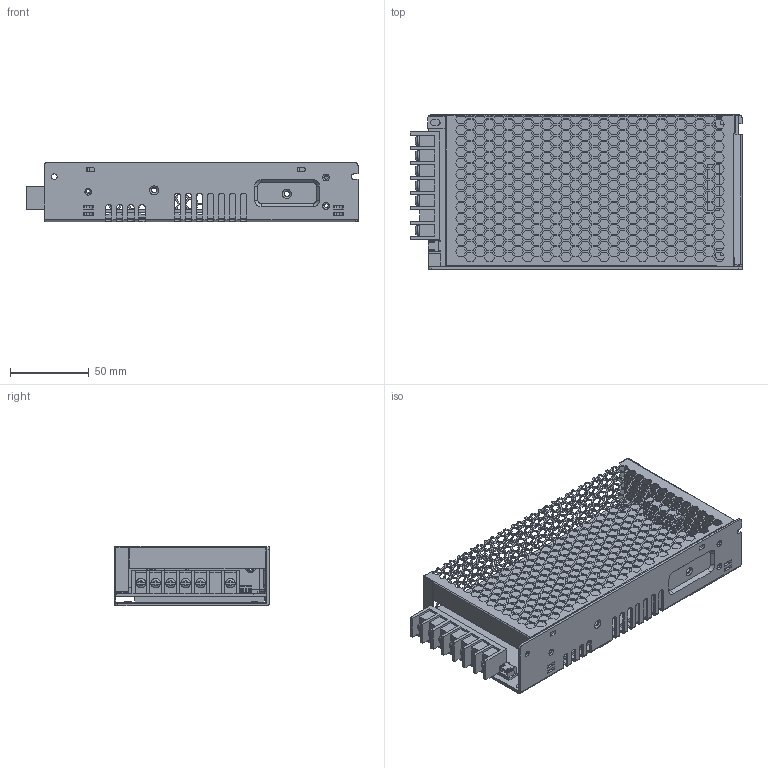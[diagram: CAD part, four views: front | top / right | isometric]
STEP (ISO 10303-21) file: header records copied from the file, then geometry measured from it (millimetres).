
FILE_DESCRIPTION(('Creo Elements/Direct Modeling STEP Export'),'2;1');
FILE_NAME('HRPG-200.stp','2024-04-11T10:43:09',(''),(''),'PTC Creo Elements/Direct Modeling STEP processor for AP214 (Solid Model)','PTC Creo Elements/Direct Modeling 19.0E 27-Jun-2016 (C) Parametric Technology GmbH','');
FILE_SCHEMA(('AUTOMOTIVE_DESIGN { 1 0 10303 214 1 1 1 1 }'));
Length unit declared in the file: millimetre
Products named in the file (20): PCB; HS3; SM.1; tn.1.1.1; G52; k107; p1.1; p2.1; 33; HRP-200; HRP-200.stp; p1; p2.2; p2; p2.1.1; 1.2.1; 1.2.1.1; 装配1
Assembly tree (19 placements, depth 5):
  HRP-200.stp
    装配1
      1.2.1.1
      1.2.1
      p2.1.1
      p2
      p2.2
      p1
      p2.1
    HRP-200.stp
      HRP-200
        33
        p2.1
        p1.1
        k107
        G52
          tn.1.1.1
        SM.1
        HS3
        PCB
Bounding box: 210.5 x 98.1 x 37.6 mm (x, y, z)
Volume: 104613.6 mm3; surface area: 181968.6 mm2
Topology: 14 solids, 14 shells, 3951 faces, 11677 edges, 7693 vertices
Faces by surface type: plane 3552, cylinder 271, bspline 56, torus 48, cone 24
Entity records: 138110 total; most frequent: CARTESIAN_POINT 31538, ORIENTED_EDGE 23370, DIRECTION 19009, EDGE_CURVE 11677, VECTOR 10563, LINE 10563, VERTEX_POINT 7693, EDGE_LOOP 4958
